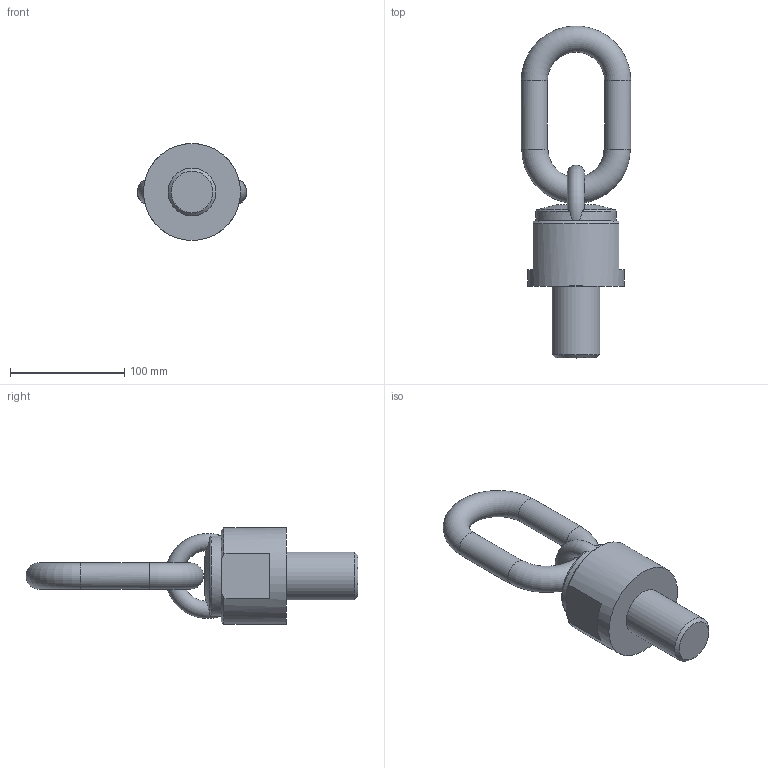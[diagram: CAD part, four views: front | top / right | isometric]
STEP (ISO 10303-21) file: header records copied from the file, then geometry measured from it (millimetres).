
FILE_DESCRIPTION( ( 'STEP AP203' ), '1' );
FILE_NAME( 'p:/temp/worker_2/temp/app_47_0201906261621211420717910e898ce_000000_00_00_000000/format_1/C8001004263.stp', '2019-06-26T14:21:21', ( '' ), ( '' ), ' ', 'PARTsolutions', ' ' );
FILE_SCHEMA( ( 'CONFIG_CONTROL_DESIGN' ) );
Length unit declared in the file: millimetre
Products named in the file (1): _C8001004263
Bounding box: 96 x 290.95 x 85 mm (x, y, z)
Volume: 606681.8 mm3; surface area: 64994.6 mm2
Topology: 1 solids, 1 shells, 27 faces, 66 edges, 41 vertices
Faces by surface type: plane 12, cylinder 6, torus 5, cone 4
Full cylindrical faces by diameter (mm): 23 x2, 42 x1, 85 x1
Entity records: 1092 total; most frequent: CARTESIAN_POINT 482, DIRECTION 118, ORIENTED_EDGE 104, AXIS2_PLACEMENT_3D 55, EDGE_CURVE 52, EDGE_LOOP 40, VERTEX_POINT 37, FACE_OUTER_BOUND 34
